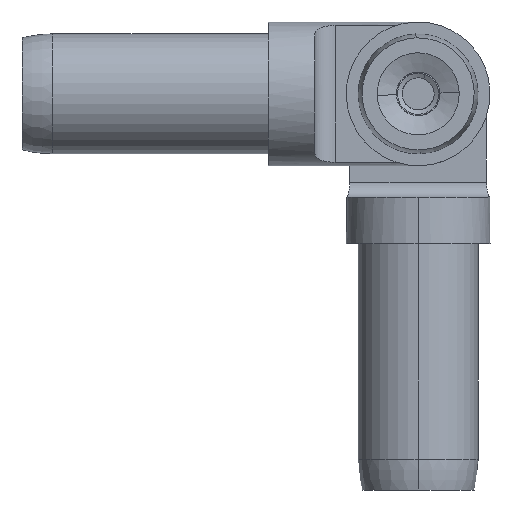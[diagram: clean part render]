
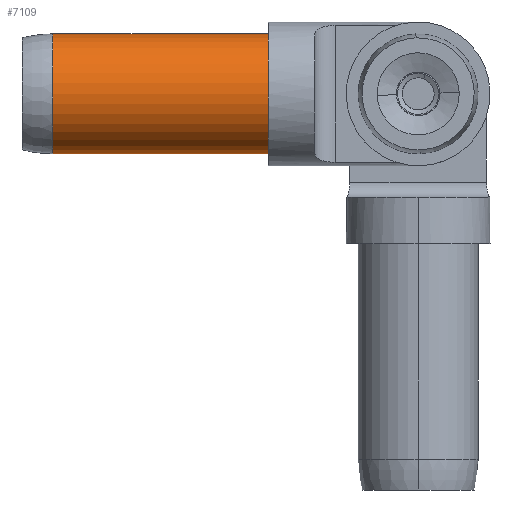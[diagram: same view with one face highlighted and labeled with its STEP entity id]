
A CAD part, front view. The second image highlights one B-rep face of the part: STEP entity #7109.
In plain terms, the highlighted cylindrical face has radius 9.271 mm (diameter 18.542 mm), a partial arc.
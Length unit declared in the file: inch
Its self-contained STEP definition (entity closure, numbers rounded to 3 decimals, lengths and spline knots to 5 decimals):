
#307 = CARTESIAN_POINT ( 'NONE',  ( -0.75, 0., 0.365 ) ) ;
#327 = EDGE_CURVE ( 'NONE', #5418, #9428, #383, .T. ) ;
#383 = CIRCLE ( 'NONE', #12801, 0.365 ) ;
#516 = CARTESIAN_POINT ( 'NONE',  ( -0.75, 0., -0.365 ) ) ;
#928 = CARTESIAN_POINT ( 'NONE',  ( -2.25, 0., 0.365 ) ) ;
#1209 = VECTOR ( 'NONE', #8225, 39.37008 ) ;
#1222 = CARTESIAN_POINT ( 'NONE',  ( -2.25, 0., 0. ) ) ;
#1435 = DIRECTION ( 'NONE',  ( -1., 0., 0. ) ) ;
#2025 = LINE ( 'NONE', #9986, #5241 ) ;
#2134 = VERTEX_POINT ( 'NONE', #516 ) ;
#4353 = VERTEX_POINT ( 'NONE', #307 ) ;
#4686 = CIRCLE ( 'NONE', #5383, 0.365 ) ;
#5007 = DIRECTION ( 'NONE',  ( 0., 0., 1. ) ) ;
#5241 = VECTOR ( 'NONE', #1435, 39.37008 ) ;
#5383 = AXIS2_PLACEMENT_3D ( 'NONE', #13548, #6328, #14706 ) ;
#5418 = VERTEX_POINT ( 'NONE', #6231 ) ;
#5879 = ORIENTED_EDGE ( 'NONE', *, *, #14173, .T. ) ;
#5941 = EDGE_LOOP ( 'NONE', ( #14402, #8422, #5879, #11592 ) ) ;
#6231 = CARTESIAN_POINT ( 'NONE',  ( -2.0625, 0., -0.365 ) ) ;
#6328 = DIRECTION ( 'NONE',  ( -1., 0., 0. ) ) ;
#7109 = ADVANCED_FACE ( 'NONE', ( #12530 ), #10658, .T. ) ;
#8225 = DIRECTION ( 'NONE',  ( -1., 0., 0. ) ) ;
#8422 = ORIENTED_EDGE ( 'NONE', *, *, #12524, .T. ) ;
#8951 = CARTESIAN_POINT ( 'NONE',  ( -2.0625, 0., 0.365 ) ) ;
#9428 = VERTEX_POINT ( 'NONE', #8951 ) ;
#9986 = CARTESIAN_POINT ( 'NONE',  ( -2.25, 0., -0.365 ) ) ;
#10480 = EDGE_CURVE ( 'NONE', #2134, #5418, #2025, .T. ) ;
#10658 = CYLINDRICAL_SURFACE ( 'NONE', #12856, 0.365 ) ;
#10938 = DIRECTION ( 'NONE',  ( 0., 0., 1. ) ) ;
#10955 = DIRECTION ( 'NONE',  ( -1., 0., 0. ) ) ;
#10960 = CARTESIAN_POINT ( 'NONE',  ( -2.0625, 0., 0. ) ) ;
#11592 = ORIENTED_EDGE ( 'NONE', *, *, #327, .F. ) ;
#12524 = EDGE_CURVE ( 'NONE', #2134, #4353, #4686, .T. ) ;
#12530 = FACE_OUTER_BOUND ( 'NONE', #5941, .T. ) ;
#12801 = AXIS2_PLACEMENT_3D ( 'NONE', #10960, #10955, #10938 ) ;
#12856 = AXIS2_PLACEMENT_3D ( 'NONE', #1222, #14607, #5007 ) ;
#13548 = CARTESIAN_POINT ( 'NONE',  ( -0.75, 0., 0. ) ) ;
#13690 = LINE ( 'NONE', #928, #1209 ) ;
#14173 = EDGE_CURVE ( 'NONE', #4353, #9428, #13690, .T. ) ;
#14402 = ORIENTED_EDGE ( 'NONE', *, *, #10480, .F. ) ;
#14607 = DIRECTION ( 'NONE',  ( -1., 0., 0. ) ) ;
#14706 = DIRECTION ( 'NONE',  ( 0., 0., 1. ) ) ;
